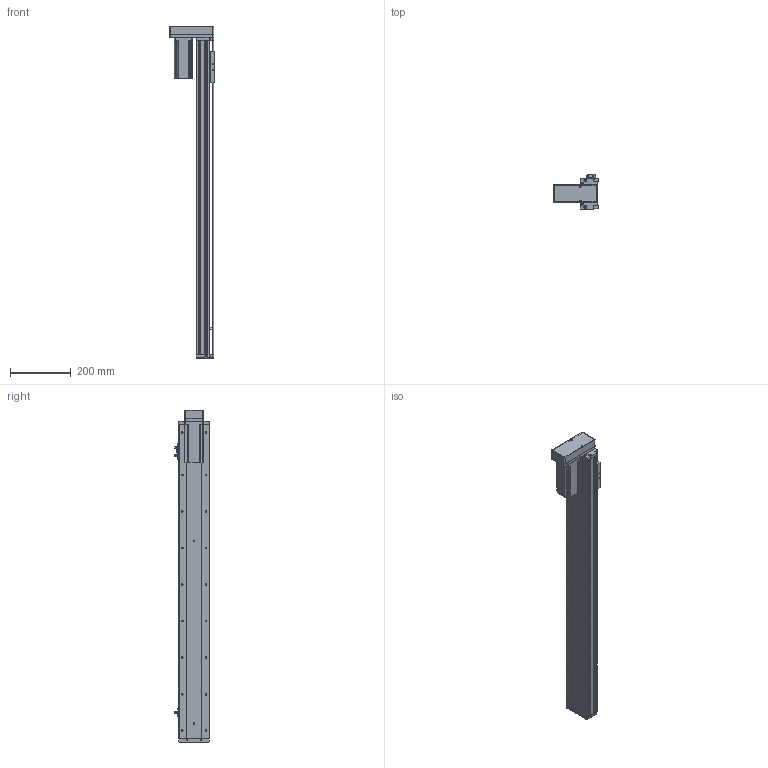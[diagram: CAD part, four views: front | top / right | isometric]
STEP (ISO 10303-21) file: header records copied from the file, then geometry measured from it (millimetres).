
FILE_DESCRIPTION (( 'STEP AP214' ), '1' );
FILE_NAME ('KSD100S-S850-MD-CM.STEP', '2019-08-30T03:42:43', ( '微软用户' ), ( '微软中国' ), 'SwSTEP 2.0', 'SolidWorks 2014', '' );
FILE_SCHEMA (( 'AUTOMOTIVE_DESIGN' ));
Length unit declared in the file: millimetre
Products named in the file (11): 100宽底板半封闭丝杆850行程; KSD100S-S850-MD-CM; 悵誘欶奻狟殏; 100宽马达安装板连板上下折丝杆同步带; 台达ECMA－C20604AS伺服电机; 覜茼え100遵圉猾敕; U倰嫖萇EEㄜSX672; 100宽防尘板丝杆850行程; 100遵鎮湛假蚾啣; 100宽滚珠螺姆安装板半封闭; 100遵傷啣
Assembly tree (12 placements, depth 2):
  KSD100S-S850-MD-CM
    100宽底板半封闭丝杆850行程
    100遵傷啣
    100宽滚珠螺姆安装板半封闭
    100遵鎮湛假蚾啣
    100宽防尘板丝杆850行程
    U倰嫖萇EEㄜSX672  x3
    覜茼え100遵圉猾敕
    台达ECMA－C20604AS伺服电机
    100宽马达安装板连板上下折丝杆同步带
    悵誘欶奻狟殏
Bounding box: 147 x 113.7 x 1090.5 mm (x, y, z)
Volume: 2584267.3 mm3; surface area: 838247.9 mm2
Topology: 13 solids, 13 shells, 1317 faces, 3712 edges, 2341 vertices
Faces by surface type: cylinder 654, plane 512, cone 151
Entity records: 47417 total; most frequent: CARTESIAN_POINT 9127, DIRECTION 6275, ORIENTED_EDGE 6028, EDGE_CURVE 3014, AXIS2_PLACEMENT_3D 2293, VERTEX_POINT 1965, VECTOR 1689, LINE 1689
